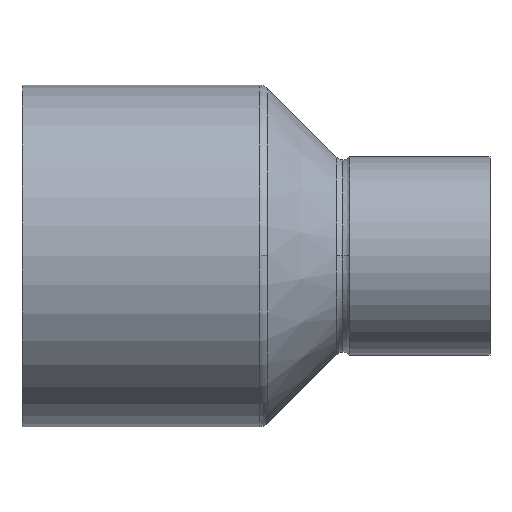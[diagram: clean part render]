
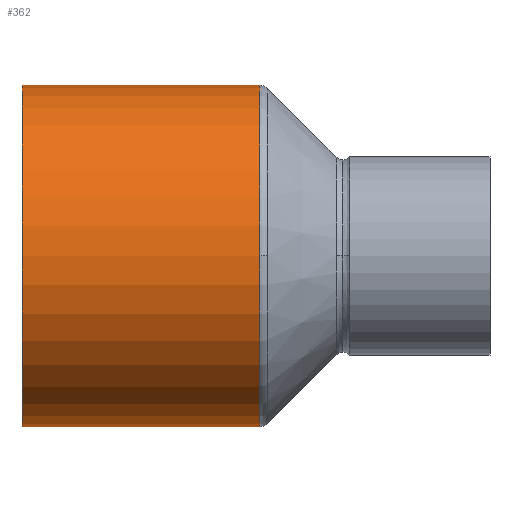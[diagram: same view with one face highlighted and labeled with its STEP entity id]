
A CAD part, top view. The second image highlights one B-rep face of the part: STEP entity #362.
In plain terms, the highlighted cylindrical face has radius 17.5 mm (diameter 35 mm), a partial arc.
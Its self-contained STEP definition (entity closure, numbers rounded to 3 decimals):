
#312=CARTESIAN_POINT('',(12.202,0.0,0.0));
#313=DIRECTION('',(1.0,0.0,0.0));
#314=DIRECTION('',(0.0,1.0,0.0));
#315=AXIS2_PLACEMENT_3D('',#312,#313,#314);
#316=CYLINDRICAL_SURFACE('',#315,17.5);
#317=CARTESIAN_POINT('',(0.,17.5,0.0));
#318=VERTEX_POINT('',#317);
#319=CARTESIAN_POINT('',(24.403,17.5,0.0));
#320=VERTEX_POINT('',#319);
#321=CARTESIAN_POINT('',(0.,17.5,0.0));
#322=DIRECTION('',(1.0,0.0,0.0));
#323=VECTOR('',#322,24.403);
#324=LINE('',#321,#323);
#325=EDGE_CURVE('',#318,#320,#324,.T.);
#326=ORIENTED_EDGE('',*,*,#325,.F.);
#327=CARTESIAN_POINT('',(0.,-17.5,0.));
#328=VERTEX_POINT('',#327);
#329=CARTESIAN_POINT('',(0.,0.0,0.0));
#330=DIRECTION('',(1.0,0.0,0.0));
#331=DIRECTION('',(0.0,1.0,0.0));
#332=AXIS2_PLACEMENT_3D('',#329,#330,#331);
#333=CIRCLE('',#332,17.5);
#334=EDGE_CURVE('',#318,#328,#333,.T.);
#335=ORIENTED_EDGE('',*,*,#334,.T.);
#336=CARTESIAN_POINT('',(24.403,-17.5,0.));
#337=VERTEX_POINT('',#336);
#338=CARTESIAN_POINT('',(24.403,-17.5,0.));
#339=DIRECTION('',(-1.0,0.0,0.0));
#340=VECTOR('',#339,24.403);
#341=LINE('',#338,#340);
#342=EDGE_CURVE('',#337,#328,#341,.T.);
#343=ORIENTED_EDGE('',*,*,#342,.F.);
#344=CARTESIAN_POINT('',(24.403,0.,17.5));
#345=VERTEX_POINT('',#344);
#346=CARTESIAN_POINT('',(24.403,0.0,0.0));
#347=DIRECTION('',(1.0,0.0,0.0));
#348=DIRECTION('',(0.0,1.0,0.0));
#349=AXIS2_PLACEMENT_3D('',#346,#347,#348);
#350=CIRCLE('',#349,17.5);
#351=EDGE_CURVE('',#345,#337,#350,.T.);
#352=ORIENTED_EDGE('',*,*,#351,.F.);
#353=CARTESIAN_POINT('',(24.403,0.0,0.0));
#354=DIRECTION('',(1.0,0.0,0.0));
#355=DIRECTION('',(0.0,1.0,0.0));
#356=AXIS2_PLACEMENT_3D('',#353,#354,#355);
#357=CIRCLE('',#356,17.5);
#358=EDGE_CURVE('',#320,#345,#357,.T.);
#359=ORIENTED_EDGE('',*,*,#358,.F.);
#360=EDGE_LOOP('',(#326,#335,#343,#352,#359));
#361=FACE_OUTER_BOUND('',#360,.T.);
#362=ADVANCED_FACE('',(#361),#316,.T.);
